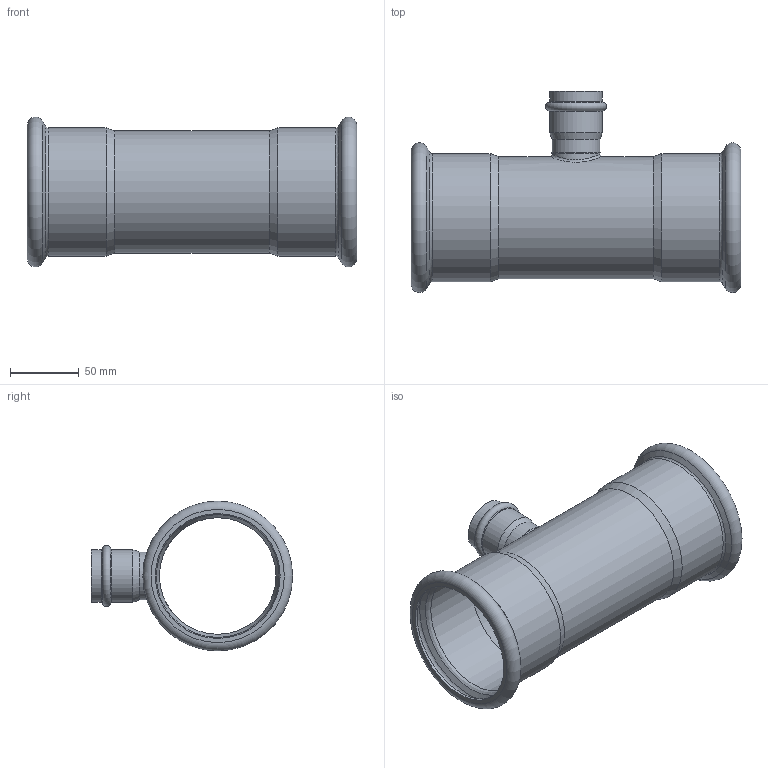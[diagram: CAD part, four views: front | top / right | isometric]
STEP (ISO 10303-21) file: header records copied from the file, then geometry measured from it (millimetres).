
FILE_DESCRIPTION((''),'2;1');
FILE_NAME('G:\Nirosan-Schmiedefeld\Technics\CAD\Bauteile VA\089\69130893589(2).stp','2011-10-28T10:32:42',('herberg'),(''),'Autodesk Inventor 2009','Autodesk Inventor 2009','');
FILE_SCHEMA(('AUTOMOTIVE_DESIGN { 1 0 10303 214 1 1 1 1 }'));
Length unit declared in the file: millimetre
Products named in the file (3): 69130893589(2); LM_69130893589(2); HM_6924335(1)
Assembly tree (2 placements, depth 2):
  69130893589(2)
    LM_69130893589(2)
    HM_6924335(1)
Bounding box: 240 x 146.55 x 109.1 mm (x, y, z)
Volume: 155007.9 mm3; surface area: 159486.9 mm2
Topology: 2 solids, 2 shells, 51 faces, 103 edges, 58 vertices
Faces by surface type: cylinder 16, cone 12, bspline 9, plane 7, torus 7
Full cylindrical faces by diameter (mm): 31 x1, 32 x1, 35 x2, 35.25 x2, 38.25 x2, 84.9 x1, 88.9 x1, 89.5 x2, 91 x2, 93.5 x2
Entity records: 2926 total; most frequent: CARTESIAN_POINT 1997, DIRECTION 192, ORIENTED_EDGE 108, EDGE_LOOP 102, AXIS2_PLACEMENT_3D 96, EDGE_CURVE 54, VERTEX_POINT 52, FACE_OUTER_BOUND 51
